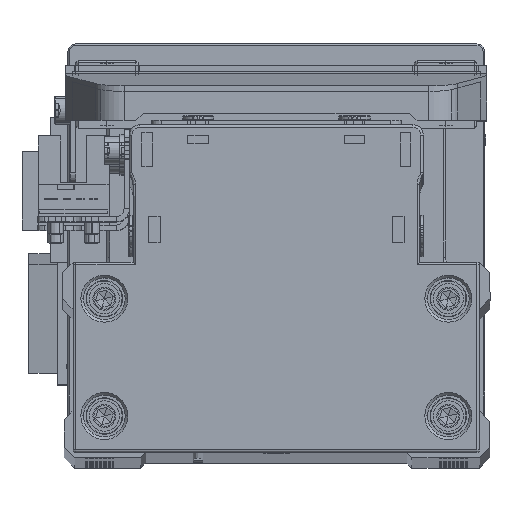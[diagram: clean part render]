
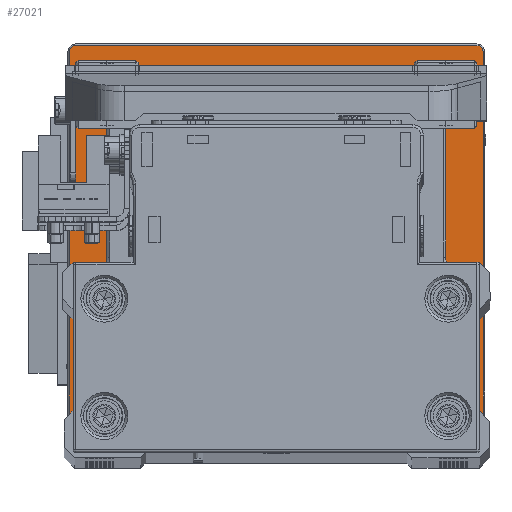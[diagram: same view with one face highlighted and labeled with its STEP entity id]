
A CAD part, top view. The second image highlights one B-rep face of the part: STEP entity #27021.
In plain terms, the highlighted planar face has unit normal (0, 0, 1) as drawn and (0, 1, 0) by its records, which use the part's own axes.
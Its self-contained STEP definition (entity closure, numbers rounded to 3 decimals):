
#1434 = LINE ( 'NONE', #13885, #12707 ) ;
#1453 = LINE ( 'NONE', #13903, #1604 ) ;
#1488 = DIRECTION ( 'NONE',  ( 0., 0., -1. ) ) ;
#1604 = VECTOR ( 'NONE', #26334, 1000. ) ;
#1770 = VERTEX_POINT ( 'NONE', #24999 ) ;
#2413 = VERTEX_POINT ( 'NONE', #5064 ) ;
#2440 = CIRCLE ( 'NONE', #25221, 1.2 ) ;
#2707 = CARTESIAN_POINT ( 'NONE',  ( 0., 12., 0. ) ) ;
#2744 = AXIS2_PLACEMENT_3D ( 'NONE', #22109, #34563, #6636 ) ;
#3019 = VERTEX_POINT ( 'NONE', #18422 ) ;
#4437 = EDGE_CURVE ( 'NONE', #28716, #1770, #20310, .T. ) ;
#5064 = CARTESIAN_POINT ( 'NONE',  ( 0., 12., 20.5 ) ) ;
#5148 = DIRECTION ( 'NONE',  ( 0., 0., 1. ) ) ;
#5759 = FACE_OUTER_BOUND ( 'NONE', #30640, .T. ) ;
#5802 = ORIENTED_EDGE ( 'NONE', *, *, #4437, .T. ) ;
#6636 = DIRECTION ( 'NONE',  ( 0., 0., -1. ) ) ;
#7059 = AXIS2_PLACEMENT_3D ( 'NONE', #20642, #33087, #5148 ) ;
#7233 = ORIENTED_EDGE ( 'NONE', *, *, #12772, .T. ) ;
#8169 = LINE ( 'NONE', #20590, #21504 ) ;
#8507 = CIRCLE ( 'NONE', #36509, 1.2 ) ;
#8510 = DIRECTION ( 'NONE',  ( 0., 0., -1. ) ) ;
#10859 = ORIENTED_EDGE ( 'NONE', *, *, #25067, .T. ) ;
#11098 = CARTESIAN_POINT ( 'NONE',  ( 38.5, 12., 38.5 ) ) ;
#11818 = CARTESIAN_POINT ( 'NONE',  ( -39.7, 12., 38.5 ) ) ;
#11929 = EDGE_CURVE ( 'NONE', #33053, #2413, #24647, .T. ) ;
#12192 = DIRECTION ( 'NONE',  ( 0., 0., 1. ) ) ;
#12366 = EDGE_CURVE ( 'NONE', #3019, #15739, #2440, .T. ) ;
#12707 = VECTOR ( 'NONE', #26318, 1000. ) ;
#12728 = AXIS2_PLACEMENT_3D ( 'NONE', #27688, #40123, #12192 ) ;
#12772 = EDGE_CURVE ( 'NONE', #34635, #28716, #14182, .T. ) ;
#13885 = CARTESIAN_POINT ( 'NONE',  ( 0., 12., 39.7 ) ) ;
#13903 = CARTESIAN_POINT ( 'NONE',  ( -39.7, 12., 0. ) ) ;
#14182 = LINE ( 'NONE', #26607, #18849 ) ;
#15137 = DIRECTION ( 'NONE',  ( 0., -1., 0. ) ) ;
#15739 = VERTEX_POINT ( 'NONE', #15749 ) ;
#15749 = CARTESIAN_POINT ( 'NONE',  ( -39.7, 12., -38.5 ) ) ;
#16369 = ORIENTED_EDGE ( 'NONE', *, *, #12366, .T. ) ;
#16569 = CARTESIAN_POINT ( 'NONE',  ( 39.7, 12., 38.5 ) ) ;
#16962 = CARTESIAN_POINT ( 'NONE',  ( -38.5, 12., 38.5 ) ) ;
#17873 = AXIS2_PLACEMENT_3D ( 'NONE', #16962, #29418, #1488 ) ;
#18178 = FACE_BOUND ( 'NONE', #32583, .T. ) ;
#18422 = CARTESIAN_POINT ( 'NONE',  ( -38.5, 12., -39.7 ) ) ;
#18849 = VECTOR ( 'NONE', #39046, 1000. ) ;
#20145 = ORIENTED_EDGE ( 'NONE', *, *, #28580, .T. ) ;
#20310 = CIRCLE ( 'NONE', #2744, 1.2 ) ;
#20590 = CARTESIAN_POINT ( 'NONE',  ( 0., 12., -39.7 ) ) ;
#20642 = CARTESIAN_POINT ( 'NONE',  ( 0., 12., 0. ) ) ;
#21504 = VECTOR ( 'NONE', #33033, 1000. ) ;
#22109 = CARTESIAN_POINT ( 'NONE',  ( 38.5, 12., -38.5 ) ) ;
#23525 = DIRECTION ( 'NONE',  ( 0., 1., 0. ) ) ;
#23995 = CARTESIAN_POINT ( 'NONE',  ( -38.5, 12., -38.5 ) ) ;
#24346 = CARTESIAN_POINT ( 'NONE',  ( 0., 12., -20.5 ) ) ;
#24543 = EDGE_CURVE ( 'NONE', #25189, #33388, #35457, .T. ) ;
#24647 = CIRCLE ( 'NONE', #7059, 20.5 ) ;
#24999 = CARTESIAN_POINT ( 'NONE',  ( 38.5, 12., -39.7 ) ) ;
#25010 = EDGE_CURVE ( 'NONE', #33388, #25992, #1434, .T. ) ;
#25067 = EDGE_CURVE ( 'NONE', #1770, #3019, #8169, .T. ) ;
#25189 = VERTEX_POINT ( 'NONE', #11818 ) ;
#25221 = AXIS2_PLACEMENT_3D ( 'NONE', #23995, #36435, #8510 ) ;
#25992 = VERTEX_POINT ( 'NONE', #30432 ) ;
#26318 = DIRECTION ( 'NONE',  ( 1., 0., 0. ) ) ;
#26334 = DIRECTION ( 'NONE',  ( 0., 0., 1. ) ) ;
#26607 = CARTESIAN_POINT ( 'NONE',  ( 39.7, 12., 0. ) ) ;
#27021 = ADVANCED_FACE ( 'NONE', ( #5759, #18178 ), #30631, .F. ) ;
#27584 = DIRECTION ( 'NONE',  ( 0., 0., -1. ) ) ;
#27688 = CARTESIAN_POINT ( 'NONE',  ( 0., 12., 0. ) ) ;
#27959 = ORIENTED_EDGE ( 'NONE', *, *, #11929, .F. ) ;
#28580 = EDGE_CURVE ( 'NONE', #15739, #25189, #1453, .T. ) ;
#28716 = VERTEX_POINT ( 'NONE', #36504 ) ;
#29220 = EDGE_CURVE ( 'NONE', #2413, #33053, #30306, .T. ) ;
#29418 = DIRECTION ( 'NONE',  ( 0., 1., 0. ) ) ;
#30306 = CIRCLE ( 'NONE', #12728, 20.5 ) ;
#30432 = CARTESIAN_POINT ( 'NONE',  ( 38.5, 12., 39.7 ) ) ;
#30450 = ORIENTED_EDGE ( 'NONE', *, *, #24543, .T. ) ;
#30631 = PLANE ( 'NONE',  #30783 ) ;
#30640 = EDGE_LOOP ( 'NONE', ( #5802, #10859, #16369, #20145, #30450, #35454, #36498, #7233 ) ) ;
#30783 = AXIS2_PLACEMENT_3D ( 'NONE', #2707, #15137, #27584 ) ;
#32583 = EDGE_LOOP ( 'NONE', ( #33445, #27959 ) ) ;
#32660 = CARTESIAN_POINT ( 'NONE',  ( -38.5, 12., 39.7 ) ) ;
#32957 = EDGE_CURVE ( 'NONE', #25992, #34635, #8507, .T. ) ;
#33033 = DIRECTION ( 'NONE',  ( -1., 0., 0. ) ) ;
#33053 = VERTEX_POINT ( 'NONE', #24346 ) ;
#33087 = DIRECTION ( 'NONE',  ( 0., 1., 0. ) ) ;
#33388 = VERTEX_POINT ( 'NONE', #32660 ) ;
#33445 = ORIENTED_EDGE ( 'NONE', *, *, #29220, .F. ) ;
#34563 = DIRECTION ( 'NONE',  ( 0., 1., 0. ) ) ;
#34635 = VERTEX_POINT ( 'NONE', #16569 ) ;
#35454 = ORIENTED_EDGE ( 'NONE', *, *, #25010, .T. ) ;
#35457 = CIRCLE ( 'NONE', #17873, 1.2 ) ;
#35971 = DIRECTION ( 'NONE',  ( 0., 0., -1. ) ) ;
#36435 = DIRECTION ( 'NONE',  ( 0., 1., 0. ) ) ;
#36498 = ORIENTED_EDGE ( 'NONE', *, *, #32957, .T. ) ;
#36504 = CARTESIAN_POINT ( 'NONE',  ( 39.7, 12., -38.5 ) ) ;
#36509 = AXIS2_PLACEMENT_3D ( 'NONE', #11098, #23525, #35971 ) ;
#39046 = DIRECTION ( 'NONE',  ( 0., 0., -1. ) ) ;
#40123 = DIRECTION ( 'NONE',  ( 0., 1., 0. ) ) ;
